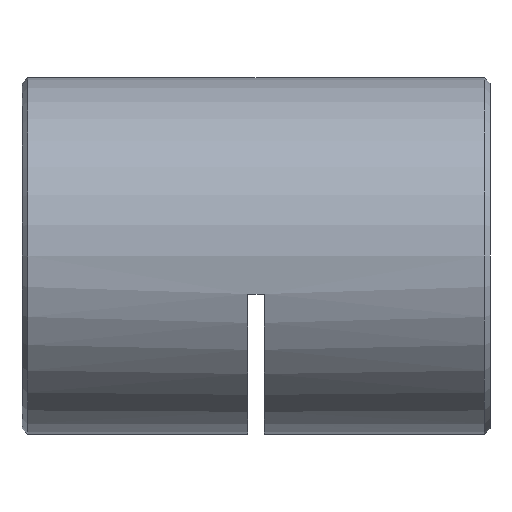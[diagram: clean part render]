
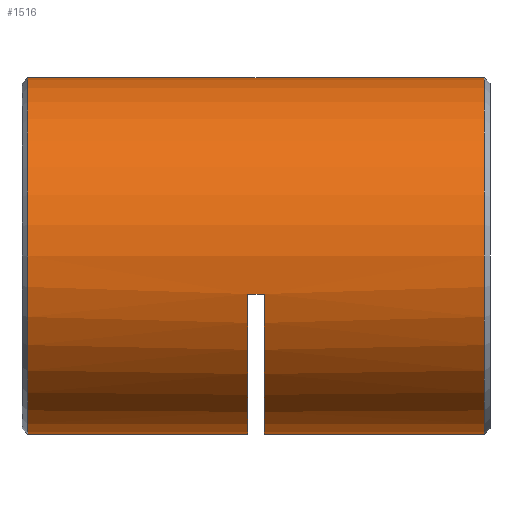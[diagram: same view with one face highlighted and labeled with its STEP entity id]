
A CAD part, left-side view. The second image highlights one B-rep face of the part: STEP entity #1516.
In plain terms, the highlighted cylindrical face has radius 16 mm (diameter 32 mm), a partial arc.
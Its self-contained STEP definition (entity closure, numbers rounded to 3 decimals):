
#33 = CARTESIAN_POINT ( 'NONE',  ( 0., 0.75, 16. ) ) ;
#50 = CARTESIAN_POINT ( 'NONE',  ( 0., 42.5, 16. ) ) ;
#83 = VERTEX_POINT ( 'NONE', #597 ) ;
#180 = EDGE_CURVE ( 'NONE', #4900, #4373, #1198, .T. ) ;
#594 = EDGE_CURVE ( 'NONE', #3075, #83, #3983, .T. ) ;
#597 = CARTESIAN_POINT ( 'NONE',  ( 0., 0.75, -16. ) ) ;
#644 = VERTEX_POINT ( 'NONE', #2865 ) ;
#761 = ORIENTED_EDGE ( 'NONE', *, *, #4657, .T. ) ;
#1040 = DIRECTION ( 'NONE',  ( 0., -1., 0. ) ) ;
#1107 = VERTEX_POINT ( 'NONE', #2873 ) ;
#1181 = AXIS2_PLACEMENT_3D ( 'NONE', #1902, #4352, #2404 ) ;
#1198 = LINE ( 'NONE', #50, #1665 ) ;
#1324 = EDGE_CURVE ( 'NONE', #83, #4373, #3049, .T. ) ;
#1335 = DIRECTION ( 'NONE',  ( 0., -1., 0. ) ) ;
#1366 = CARTESIAN_POINT ( 'NONE',  ( -15.632, 22., -3.413 ) ) ;
#1491 = CARTESIAN_POINT ( 'NONE',  ( 0., 42.5, -16. ) ) ;
#1513 = LINE ( 'NONE', #2241, #2915 ) ;
#1516 = ADVANCED_FACE ( 'NONE', ( #6199 ), #2263, .T. ) ;
#1549 = CIRCLE ( 'NONE', #5685, 16. ) ;
#1665 = VECTOR ( 'NONE', #1040, 1000. ) ;
#1735 = EDGE_CURVE ( 'NONE', #1107, #3075, #1549, .T. ) ;
#1868 = CARTESIAN_POINT ( 'NONE',  ( 0., 41.75, -16. ) ) ;
#1902 = CARTESIAN_POINT ( 'NONE',  ( 0., 42.5, 0. ) ) ;
#2221 = DIRECTION ( 'NONE',  ( 0., 0., 1. ) ) ;
#2241 = CARTESIAN_POINT ( 'NONE',  ( 0., 42.5, -16. ) ) ;
#2252 = ORIENTED_EDGE ( 'NONE', *, *, #180, .F. ) ;
#2263 = CYLINDRICAL_SURFACE ( 'NONE', #1181, 16. ) ;
#2371 = ORIENTED_EDGE ( 'NONE', *, *, #4225, .F. ) ;
#2379 = CARTESIAN_POINT ( 'NONE',  ( 0., 22., 0. ) ) ;
#2404 = DIRECTION ( 'NONE',  ( 0., 0., -1. ) ) ;
#2865 = CARTESIAN_POINT ( 'NONE',  ( 0., 22., -16. ) ) ;
#2873 = CARTESIAN_POINT ( 'NONE',  ( -15.632, 20.5, -3.413 ) ) ;
#2915 = VECTOR ( 'NONE', #3794, 1000. ) ;
#2955 = ORIENTED_EDGE ( 'NONE', *, *, #594, .T. ) ;
#3033 = DIRECTION ( 'NONE',  ( 0., -1., 0. ) ) ;
#3049 = CIRCLE ( 'NONE', #3627, 16. ) ;
#3075 = VERTEX_POINT ( 'NONE', #5577 ) ;
#3502 = AXIS2_PLACEMENT_3D ( 'NONE', #3622, #5043, #6030 ) ;
#3569 = ORIENTED_EDGE ( 'NONE', *, *, #1735, .T. ) ;
#3622 = CARTESIAN_POINT ( 'NONE',  ( 0., 41.75, 0. ) ) ;
#3627 = AXIS2_PLACEMENT_3D ( 'NONE', #4182, #5276, #2221 ) ;
#3794 = DIRECTION ( 'NONE',  ( 0., -1., 0. ) ) ;
#3889 = CIRCLE ( 'NONE', #3502, 16. ) ;
#3956 = EDGE_LOOP ( 'NONE', ( #2252, #4880, #761, #2371, #4663, #3569, #2955, #5378 ) ) ;
#3983 = LINE ( 'NONE', #1491, #4605 ) ;
#3991 = AXIS2_PLACEMENT_3D ( 'NONE', #2379, #4342, #4390 ) ;
#4182 = CARTESIAN_POINT ( 'NONE',  ( 0., 0.75, 0. ) ) ;
#4195 = VERTEX_POINT ( 'NONE', #1868 ) ;
#4225 = EDGE_CURVE ( 'NONE', #5899, #644, #4709, .T. ) ;
#4308 = CARTESIAN_POINT ( 'NONE',  ( 0., 20.5, 0. ) ) ;
#4342 = DIRECTION ( 'NONE',  ( 0., -1., 0. ) ) ;
#4352 = DIRECTION ( 'NONE',  ( 0., -1., 0. ) ) ;
#4359 = EDGE_CURVE ( 'NONE', #5899, #1107, #5081, .T. ) ;
#4373 = VERTEX_POINT ( 'NONE', #33 ) ;
#4388 = VECTOR ( 'NONE', #3033, 1000. ) ;
#4390 = DIRECTION ( 'NONE',  ( 0., 0., -1. ) ) ;
#4462 = CARTESIAN_POINT ( 'NONE',  ( 0., 41.75, 16. ) ) ;
#4605 = VECTOR ( 'NONE', #6394, 1000. ) ;
#4657 = EDGE_CURVE ( 'NONE', #4195, #644, #1513, .T. ) ;
#4663 = ORIENTED_EDGE ( 'NONE', *, *, #4359, .T. ) ;
#4709 = CIRCLE ( 'NONE', #3991, 16. ) ;
#4880 = ORIENTED_EDGE ( 'NONE', *, *, #6133, .T. ) ;
#4900 = VERTEX_POINT ( 'NONE', #4462 ) ;
#5043 = DIRECTION ( 'NONE',  ( 0., -1., 0. ) ) ;
#5081 = LINE ( 'NONE', #5480, #4388 ) ;
#5276 = DIRECTION ( 'NONE',  ( 0., 1., 0. ) ) ;
#5378 = ORIENTED_EDGE ( 'NONE', *, *, #1324, .T. ) ;
#5480 = CARTESIAN_POINT ( 'NONE',  ( -15.632, 21.25, -3.413 ) ) ;
#5577 = CARTESIAN_POINT ( 'NONE',  ( 0., 20.5, -16. ) ) ;
#5685 = AXIS2_PLACEMENT_3D ( 'NONE', #4308, #1335, #6223 ) ;
#5899 = VERTEX_POINT ( 'NONE', #1366 ) ;
#6030 = DIRECTION ( 'NONE',  ( 0., 0., -1. ) ) ;
#6133 = EDGE_CURVE ( 'NONE', #4900, #4195, #3889, .T. ) ;
#6199 = FACE_OUTER_BOUND ( 'NONE', #3956, .T. ) ;
#6223 = DIRECTION ( 'NONE',  ( 0., 0., -1. ) ) ;
#6394 = DIRECTION ( 'NONE',  ( 0., -1., 0. ) ) ;
